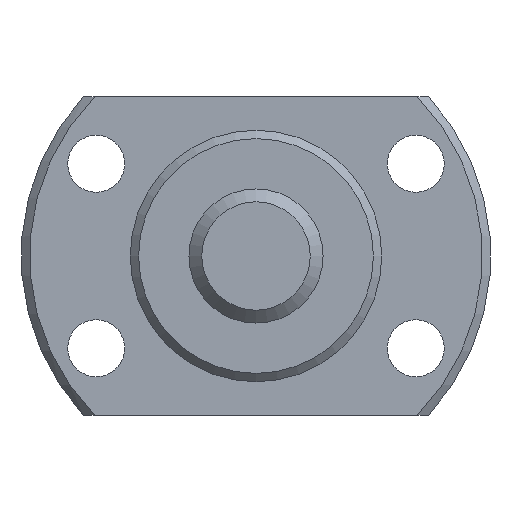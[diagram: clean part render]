
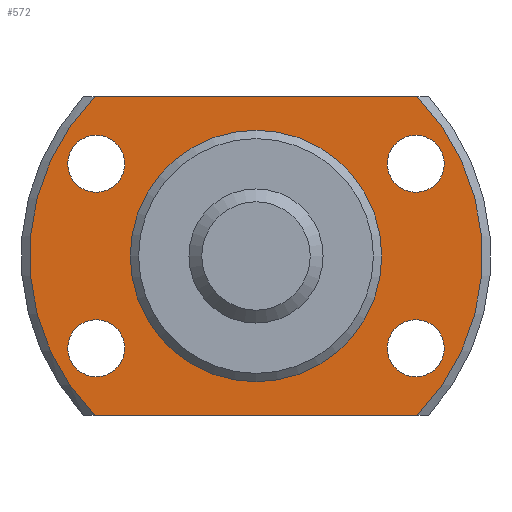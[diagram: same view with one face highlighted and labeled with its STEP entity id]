
A CAD part, left-side view. The second image highlights one B-rep face of the part: STEP entity #572.
In plain terms, the highlighted planar face has unit normal (-1, 0, 0) as drawn and (1, 0, 0) by its records, which use the part's own axes.
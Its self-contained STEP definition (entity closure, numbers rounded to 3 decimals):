
#75=LINE('',#1011,#93);
#76=LINE('',#1013,#94);
#93=VECTOR('',#835,1000.);
#94=VECTOR('',#836,1000.);
#184=ORIENTED_EDGE('',*,*,#281,.T.);
#185=ORIENTED_EDGE('',*,*,#259,.T.);
#186=ORIENTED_EDGE('',*,*,#282,.T.);
#187=ORIENTED_EDGE('',*,*,#283,.T.);
#188=ORIENTED_EDGE('',*,*,#284,.F.);
#189=ORIENTED_EDGE('',*,*,#285,.F.);
#190=ORIENTED_EDGE('',*,*,#286,.F.);
#191=ORIENTED_EDGE('',*,*,#287,.F.);
#192=ORIENTED_EDGE('',*,*,#280,.F.);
#259=EDGE_CURVE('',#317,#319,#365,.T.);
#280=EDGE_CURVE('',#338,#338,#380,.T.);
#281=EDGE_CURVE('',#339,#317,#75,.T.);
#282=EDGE_CURVE('',#319,#340,#76,.T.);
#283=EDGE_CURVE('',#340,#339,#381,.T.);
#284=EDGE_CURVE('',#341,#341,#382,.T.);
#285=EDGE_CURVE('',#342,#342,#383,.T.);
#286=EDGE_CURVE('',#343,#343,#384,.T.);
#287=EDGE_CURVE('',#344,#344,#385,.T.);
#317=VERTEX_POINT('',#946);
#319=VERTEX_POINT('',#953);
#338=VERTEX_POINT('',#1009);
#339=VERTEX_POINT('',#1012);
#340=VERTEX_POINT('',#1014);
#341=VERTEX_POINT('',#1017);
#342=VERTEX_POINT('',#1019);
#343=VERTEX_POINT('',#1021);
#344=VERTEX_POINT('',#1023);
#365=CIRCLE('',#647,13.5);
#380=CIRCLE('',#671,7.3);
#381=CIRCLE('',#673,13.5);
#382=CIRCLE('',#674,1.7);
#383=CIRCLE('',#675,1.7);
#384=CIRCLE('',#676,1.7);
#385=CIRCLE('',#677,1.7);
#438=EDGE_LOOP('',(#184,#185,#186,#187));
#439=EDGE_LOOP('',(#188));
#440=EDGE_LOOP('',(#189));
#441=EDGE_LOOP('',(#190));
#442=EDGE_LOOP('',(#191));
#443=EDGE_LOOP('',(#192));
#508=FACE_BOUND('',#438,.T.);
#509=FACE_BOUND('',#439,.T.);
#510=FACE_BOUND('',#440,.T.);
#511=FACE_BOUND('',#441,.T.);
#512=FACE_BOUND('',#442,.T.);
#513=FACE_BOUND('',#443,.T.);
#540=PLANE('',#672);
#572=ADVANCED_FACE('',(#508,#509,#510,#511,#512,#513),#540,.T.);
#647=AXIS2_PLACEMENT_3D('',#954,#779,#780);
#671=AXIS2_PLACEMENT_3D('',#1008,#831,#832);
#672=AXIS2_PLACEMENT_3D('',#1010,#833,#834);
#673=AXIS2_PLACEMENT_3D('',#1015,#837,#838);
#674=AXIS2_PLACEMENT_3D('',#1016,#839,#840);
#675=AXIS2_PLACEMENT_3D('',#1018,#841,#842);
#676=AXIS2_PLACEMENT_3D('',#1020,#843,#844);
#677=AXIS2_PLACEMENT_3D('',#1022,#845,#846);
#779=DIRECTION('',(1.,0.,0.));
#780=DIRECTION('',(0.,0.,-1.));
#831=DIRECTION('',(1.,0.,0.));
#832=DIRECTION('',(0.,0.,-1.));
#833=DIRECTION('',(1.,0.,0.));
#834=DIRECTION('',(0.,0.,-1.));
#835=DIRECTION('',(0.,-1.,0.));
#836=DIRECTION('',(0.,1.,0.));
#837=DIRECTION('',(1.,0.,0.));
#838=DIRECTION('',(0.,0.,-1.));
#839=DIRECTION('',(1.,0.,0.));
#840=DIRECTION('',(0.,0.,-1.));
#841=DIRECTION('',(1.,0.,0.));
#842=DIRECTION('',(0.,0.,-1.));
#843=DIRECTION('',(1.,0.,0.));
#844=DIRECTION('',(0.,0.,-1.));
#845=DIRECTION('',(1.,0.,0.));
#846=DIRECTION('',(0.,0.,-1.));
#946=CARTESIAN_POINT('',(4.,-9.592,9.5));
#953=CARTESIAN_POINT('',(4.,-9.592,-9.5));
#954=CARTESIAN_POINT('',(4.,0.,0.));
#1008=CARTESIAN_POINT('',(4.,0.,0.));
#1009=CARTESIAN_POINT('',(4.,0.,-7.3));
#1010=CARTESIAN_POINT('',(4.,7.3,0.));
#1011=CARTESIAN_POINT('',(4.,14.,9.5));
#1012=CARTESIAN_POINT('',(4.,9.592,9.5));
#1013=CARTESIAN_POINT('',(4.,-14.,-9.5));
#1014=CARTESIAN_POINT('',(4.,9.592,-9.5));
#1015=CARTESIAN_POINT('',(4.,0.,0.));
#1016=CARTESIAN_POINT('',(4.,9.526,5.5));
#1017=CARTESIAN_POINT('',(4.,9.526,3.8));
#1018=CARTESIAN_POINT('',(4.,-9.526,5.5));
#1019=CARTESIAN_POINT('',(4.,-9.526,3.8));
#1020=CARTESIAN_POINT('',(4.,-9.526,-5.5));
#1021=CARTESIAN_POINT('',(4.,-9.526,-7.2));
#1022=CARTESIAN_POINT('',(4.,9.526,-5.5));
#1023=CARTESIAN_POINT('',(4.,9.526,-7.2));
